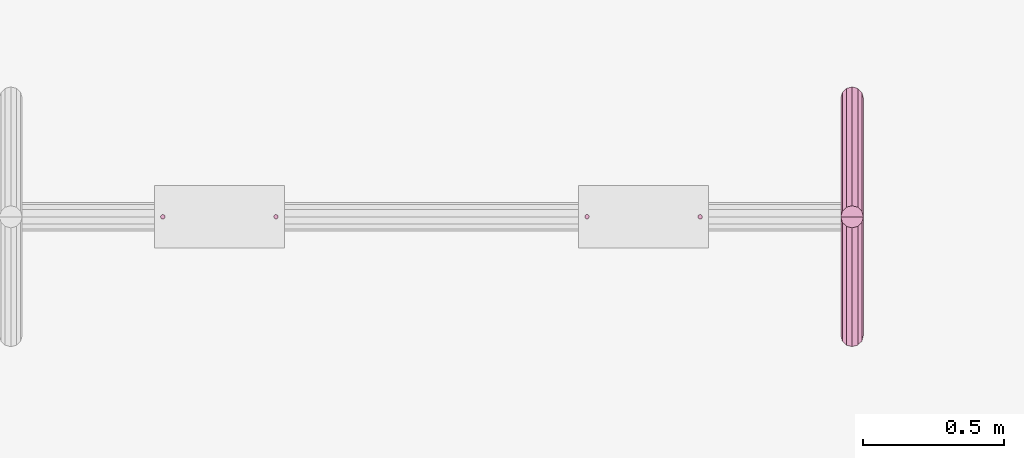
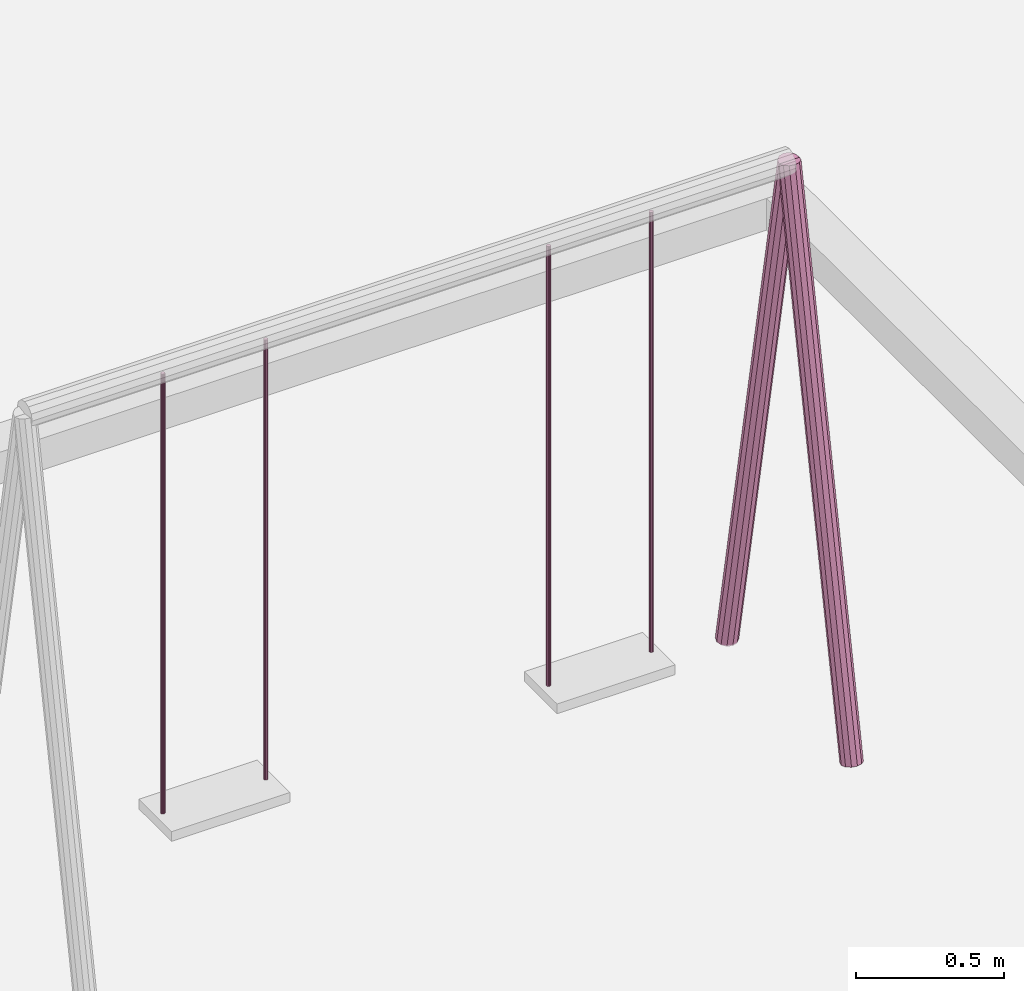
# One storey, part 147 of 177: 6 furnishings.
"""IFC4 building model written with IfcOpenShell, lengths in metres."""

from ifc_helpers import new_model, si_unit, origin, origin_with_axes, place, context, subcontext, project, spatial, triangles, element, save


model = new_model("IFC4")

# Units and contexts
model_context = context("Model", 3, precision=1e-05, world=origin_with_axes())
body_context = subcontext(model_context, "Body", "Model", "MODEL_VIEW")
ifc_project = project(units=[si_unit("LENGTHUNIT", "METRE"), si_unit("AREAUNIT", "SQUARE_METRE"), si_unit("VOLUMEUNIT", "CUBIC_METRE"), si_unit("PLANEANGLEUNIT", "RADIAN")], contexts=[model_context])

# Site, building, storey
site_placement = place(None, origin_with_axes())
site = spatial("IfcSite", under=ifc_project, at=site_placement, Name="Predio Los Mangos - Morales, San Martín", CompositionType="ELEMENT")
building_placement = place(site_placement, origin())
building = spatial("IfcBuilding", under=site, at=building_placement, Name="Hogar de Refugio Temporal", CompositionType="ELEMENT")
storey_placement = place(building_placement, origin())
storey = spatial("IfcBuildingStorey", under=building, at=storey_placement, Name="NIVEL 1 (NPT +0.00)", CompositionType="ELEMENT", Elevation=0.0)

# Furnishings
furnishing_1_placement = place(storey_placement, origin())
element("IfcFurnishingElement", 1, at=furnishing_1_placement, inside=storey, Name="columpio_pata", ObjectType="Mobiliario exterior / juegos", context=body_context, shape_type="Tessellation", body=[
    triangles([(40.285, 85.0097, 0.1374), (40.285, 85.4297, 2.3574), (40.265, 85.015, 0.1364), (40.265, 85.435, 2.3564), (40.2504, 85.0294, 0.1337), (40.2504, 85.4493, 2.3537), (40.245, 85.049, 0.13), (40.245, 85.469, 2.35), (40.2504, 85.0687, 0.1263), (40.2504, 85.4887, 2.3463), (40.265, 85.083, 0.1236), (40.265, 85.503, 2.3436), (40.285, 85.0883, 0.1226), (40.285, 85.5083, 2.3426), (40.305, 85.083, 0.1236), (40.305, 85.503, 2.3436), (40.3196, 85.0687, 0.1263), (40.3196, 85.4887, 2.3463), (40.325, 85.049, 0.13), (40.325, 85.469, 2.35), (40.3196, 85.0294, 0.1337), (40.3196, 85.4493, 2.3537), (40.305, 85.015, 0.1364), (40.305, 85.435, 2.3564)], [[1, 2, 4], [1, 4, 3], [3, 4, 6], [3, 6, 5], [5, 6, 8], [5, 8, 7], [7, 8, 10], [7, 10, 9], [9, 10, 12], [9, 12, 11], [11, 12, 14], [11, 14, 13], [13, 14, 16], [13, 16, 15], [15, 16, 18], [15, 18, 17], [17, 18, 20], [17, 20, 19], [19, 20, 22], [19, 22, 21], [6, 4, 2], [2, 24, 22], [22, 20, 18], [18, 16, 14], [14, 12, 10], [10, 8, 6], [6, 2, 22], [22, 18, 14], [14, 10, 6], [22, 14, 6], [21, 22, 24], [21, 24, 23], [23, 24, 2], [23, 2, 1], [23, 1, 3], [3, 5, 7], [7, 9, 11], [11, 13, 15], [15, 17, 19], [19, 21, 23], [23, 3, 7], [7, 11, 15], [15, 19, 23], [7, 15, 23]]),
])
furnishing_2_placement = place(storey_placement, origin())
element("IfcFurnishingElement", 2, at=furnishing_2_placement, inside=storey, Name="columpio_pata", ObjectType="Mobiliario exterior / juegos", context=body_context, shape_type="Tessellation", body=[
    triangles([(40.285, 85.9283, 0.1374), (40.285, 85.5083, 2.3574), (40.305, 85.923, 0.1364), (40.305, 85.503, 2.3564), (40.3196, 85.9087, 0.1337), (40.3196, 85.4887, 2.3537), (40.325, 85.889, 0.13), (40.325, 85.469, 2.35), (40.3196, 85.8693, 0.1263), (40.3196, 85.4493, 2.3463), (40.305, 85.855, 0.1236), (40.305, 85.435, 2.3436), (40.285, 85.8497, 0.1226), (40.285, 85.4297, 2.3426), (40.265, 85.855, 0.1236), (40.265, 85.435, 2.3436), (40.2504, 85.8693, 0.1263), (40.2504, 85.4493, 2.3463), (40.245, 85.889, 0.13), (40.245, 85.469, 2.35), (40.2504, 85.9087, 0.1337), (40.2504, 85.4887, 2.3537), (40.265, 85.923, 0.1364), (40.265, 85.503, 2.3564)], [[1, 2, 4], [1, 4, 3], [3, 4, 6], [3, 6, 5], [5, 6, 8], [5, 8, 7], [7, 8, 10], [7, 10, 9], [9, 10, 12], [9, 12, 11], [11, 12, 14], [11, 14, 13], [13, 14, 16], [13, 16, 15], [15, 16, 18], [15, 18, 17], [17, 18, 20], [17, 20, 19], [19, 20, 22], [19, 22, 21], [6, 4, 2], [2, 24, 22], [22, 20, 18], [18, 16, 14], [14, 12, 10], [10, 8, 6], [6, 2, 22], [22, 18, 14], [14, 10, 6], [22, 14, 6], [21, 22, 24], [21, 24, 23], [23, 24, 2], [23, 2, 1], [23, 1, 3], [3, 5, 7], [7, 9, 11], [11, 13, 15], [15, 17, 19], [19, 21, 23], [23, 3, 7], [7, 11, 15], [15, 19, 23], [7, 15, 23]]),
])
furnishing_3_placement = place(storey_placement, origin())
element("IfcFurnishingElement", 3, at=furnishing_3_placement, inside=storey, Name="cadena", ObjectType="Mobiliario exterior / juegos", context=body_context, shape_type="Tessellation", body=[
    triangles([(37.8475, 85.461, 0.52), (37.8475, 85.461, 2.33), (37.8435, 85.4621, 0.52), (37.8435, 85.4621, 2.33), (37.8406, 85.465, 0.52), (37.8406, 85.465, 2.33), (37.8395, 85.469, 0.52), (37.8395, 85.469, 2.33), (37.8406, 85.473, 0.52), (37.8406, 85.473, 2.33), (37.8435, 85.4759, 0.52), (37.8435, 85.4759, 2.33), (37.8475, 85.477, 0.52), (37.8475, 85.477, 2.33), (37.8515, 85.4759, 0.52), (37.8515, 85.4759, 2.33), (37.8544, 85.473, 0.52), (37.8544, 85.473, 2.33), (37.8555, 85.469, 0.52), (37.8555, 85.469, 2.33), (37.8544, 85.465, 0.52), (37.8544, 85.465, 2.33), (37.8515, 85.4621, 0.52), (37.8515, 85.4621, 2.33)], [[1, 2, 4], [1, 4, 3], [3, 4, 6], [3, 6, 5], [5, 6, 8], [5, 8, 7], [7, 8, 10], [7, 10, 9], [9, 10, 12], [9, 12, 11], [11, 12, 14], [11, 14, 13], [13, 14, 16], [13, 16, 15], [15, 16, 18], [15, 18, 17], [17, 18, 20], [17, 20, 19], [19, 20, 22], [19, 22, 21], [6, 4, 2], [2, 24, 22], [22, 20, 18], [18, 16, 14], [14, 12, 10], [10, 8, 6], [6, 2, 22], [22, 18, 14], [14, 10, 6], [22, 14, 6], [21, 22, 24], [21, 24, 23], [23, 24, 2], [23, 2, 1], [23, 1, 3], [3, 5, 7], [7, 9, 11], [11, 13, 15], [15, 17, 19], [19, 21, 23], [23, 3, 7], [7, 11, 15], [15, 19, 23], [7, 15, 23]]),
])
furnishing_4_placement = place(storey_placement, origin())
element("IfcFurnishingElement", 4, at=furnishing_4_placement, inside=storey, Name="cadena", ObjectType="Mobiliario exterior / juegos", context=body_context, shape_type="Tessellation", body=[
    triangles([(38.2475, 85.461, 0.52), (38.2475, 85.461, 2.33), (38.2435, 85.4621, 0.52), (38.2435, 85.4621, 2.33), (38.2406, 85.465, 0.52), (38.2406, 85.465, 2.33), (38.2395, 85.469, 0.52), (38.2395, 85.469, 2.33), (38.2406, 85.473, 0.52), (38.2406, 85.473, 2.33), (38.2435, 85.4759, 0.52), (38.2435, 85.4759, 2.33), (38.2475, 85.477, 0.52), (38.2475, 85.477, 2.33), (38.2515, 85.4759, 0.52), (38.2515, 85.4759, 2.33), (38.2544, 85.473, 0.52), (38.2544, 85.473, 2.33), (38.2555, 85.469, 0.52), (38.2555, 85.469, 2.33), (38.2544, 85.465, 0.52), (38.2544, 85.465, 2.33), (38.2515, 85.4621, 0.52), (38.2515, 85.4621, 2.33)], [[1, 2, 4], [1, 4, 3], [3, 4, 6], [3, 6, 5], [5, 6, 8], [5, 8, 7], [7, 8, 10], [7, 10, 9], [9, 10, 12], [9, 12, 11], [11, 12, 14], [11, 14, 13], [13, 14, 16], [13, 16, 15], [15, 16, 18], [15, 18, 17], [17, 18, 20], [17, 20, 19], [19, 20, 22], [19, 22, 21], [6, 4, 2], [2, 24, 22], [22, 20, 18], [18, 16, 14], [14, 12, 10], [10, 8, 6], [6, 2, 22], [22, 18, 14], [14, 10, 6], [22, 14, 6], [21, 22, 24], [21, 24, 23], [23, 24, 2], [23, 2, 1], [23, 1, 3], [3, 5, 7], [7, 9, 11], [11, 13, 15], [15, 17, 19], [19, 21, 23], [23, 3, 7], [7, 11, 15], [15, 19, 23], [7, 15, 23]]),
])
furnishing_5_placement = place(storey_placement, origin())
element("IfcFurnishingElement", 5, at=furnishing_5_placement, inside=storey, Name="cadena", ObjectType="Mobiliario exterior / juegos", context=body_context, shape_type="Tessellation", body=[
    triangles([(39.3475, 85.461, 0.52), (39.3475, 85.461, 2.33), (39.3435, 85.4621, 0.52), (39.3435, 85.4621, 2.33), (39.3406, 85.465, 0.52), (39.3406, 85.465, 2.33), (39.3395, 85.469, 0.52), (39.3395, 85.469, 2.33), (39.3406, 85.473, 0.52), (39.3406, 85.473, 2.33), (39.3435, 85.4759, 0.52), (39.3435, 85.4759, 2.33), (39.3475, 85.477, 0.52), (39.3475, 85.477, 2.33), (39.3515, 85.4759, 0.52), (39.3515, 85.4759, 2.33), (39.3544, 85.473, 0.52), (39.3544, 85.473, 2.33), (39.3555, 85.469, 0.52), (39.3555, 85.469, 2.33), (39.3544, 85.465, 0.52), (39.3544, 85.465, 2.33), (39.3515, 85.4621, 0.52), (39.3515, 85.4621, 2.33)], [[1, 2, 4], [1, 4, 3], [3, 4, 6], [3, 6, 5], [5, 6, 8], [5, 8, 7], [7, 8, 10], [7, 10, 9], [9, 10, 12], [9, 12, 11], [11, 12, 14], [11, 14, 13], [13, 14, 16], [13, 16, 15], [15, 16, 18], [15, 18, 17], [17, 18, 20], [17, 20, 19], [19, 20, 22], [19, 22, 21], [6, 4, 2], [2, 24, 22], [22, 20, 18], [18, 16, 14], [14, 12, 10], [10, 8, 6], [6, 2, 22], [22, 18, 14], [14, 10, 6], [22, 14, 6], [21, 22, 24], [21, 24, 23], [23, 24, 2], [23, 2, 1], [23, 1, 3], [3, 5, 7], [7, 9, 11], [11, 13, 15], [15, 17, 19], [19, 21, 23], [23, 3, 7], [7, 11, 15], [15, 19, 23], [7, 15, 23]]),
])
furnishing_6_placement = place(storey_placement, origin())
element("IfcFurnishingElement", 6, at=furnishing_6_placement, inside=storey, Name="cadena", ObjectType="Mobiliario exterior / juegos", context=body_context, shape_type="Tessellation", body=[
    triangles([(39.7475, 85.461, 0.52), (39.7475, 85.461, 2.33), (39.7435, 85.4621, 0.52), (39.7435, 85.4621, 2.33), (39.7406, 85.465, 0.52), (39.7406, 85.465, 2.33), (39.7395, 85.469, 0.52), (39.7395, 85.469, 2.33), (39.7406, 85.473, 0.52), (39.7406, 85.473, 2.33), (39.7435, 85.4759, 0.52), (39.7435, 85.4759, 2.33), (39.7475, 85.477, 0.52), (39.7475, 85.477, 2.33), (39.7515, 85.4759, 0.52), (39.7515, 85.4759, 2.33), (39.7544, 85.473, 0.52), (39.7544, 85.473, 2.33), (39.7555, 85.469, 0.52), (39.7555, 85.469, 2.33), (39.7544, 85.465, 0.52), (39.7544, 85.465, 2.33), (39.7515, 85.4621, 0.52), (39.7515, 85.4621, 2.33)], [[1, 2, 4], [1, 4, 3], [3, 4, 6], [3, 6, 5], [5, 6, 8], [5, 8, 7], [7, 8, 10], [7, 10, 9], [9, 10, 12], [9, 12, 11], [11, 12, 14], [11, 14, 13], [13, 14, 16], [13, 16, 15], [15, 16, 18], [15, 18, 17], [17, 18, 20], [17, 20, 19], [19, 20, 22], [19, 22, 21], [6, 4, 2], [2, 24, 22], [22, 20, 18], [18, 16, 14], [14, 12, 10], [10, 8, 6], [6, 2, 22], [22, 18, 14], [14, 10, 6], [22, 14, 6], [21, 22, 24], [21, 24, 23], [23, 24, 2], [23, 2, 1], [23, 1, 3], [3, 5, 7], [7, 9, 11], [11, 13, 15], [15, 17, 19], [19, 21, 23], [23, 3, 7], [7, 11, 15], [15, 19, 23], [7, 15, 23]]),
])

save(model, "model.ifc")
